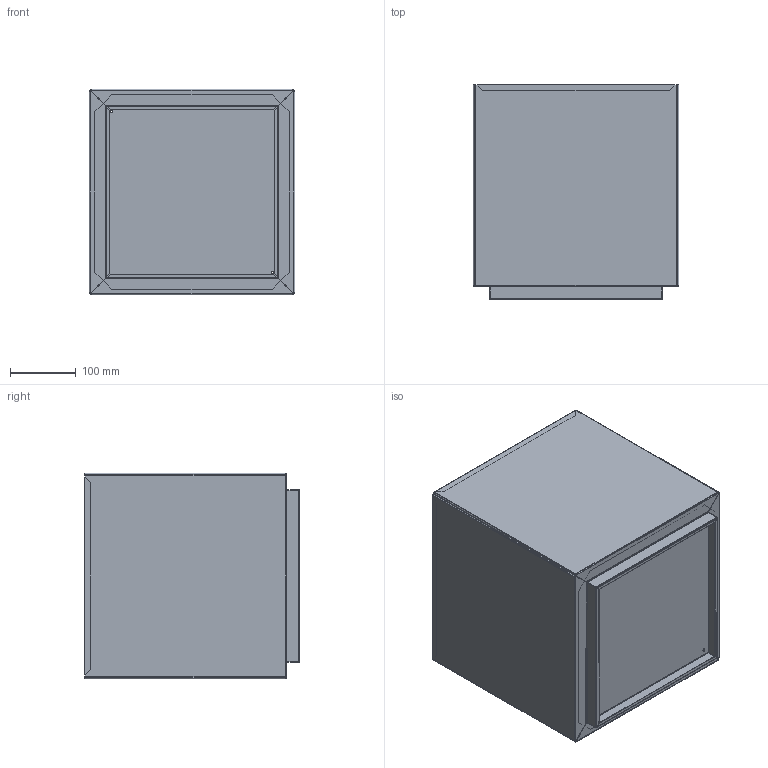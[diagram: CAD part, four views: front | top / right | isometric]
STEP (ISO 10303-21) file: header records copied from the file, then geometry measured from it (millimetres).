
FILE_DESCRIPTION((''),'2;1');
FILE_NAME('22058_ASM','2023-07-10T15:04:16',('joshb'),(''),'CREO PARAMETRIC BY PTC INC, 2019344','CREO PARAMETRIC BY PTC INC, 2019344','');
FILE_SCHEMA(('CONFIG_CONTROL_DESIGN'));
Length unit declared in the file: inch
Products named in the file (3): 22057-012-XXX; 22061-012-XXX; 22058_ASM
Assembly tree (5 placements, depth 2):
  22058_ASM
    22057-012-XXX  x4
    22061-012-XXX
Bounding box: 313.06 x 327.95 x 313.06 mm (x, y, z)
Volume: 533135 mm3; surface area: 1177101.7 mm2
Topology: 5 solids, 5 shells, 722 faces, 1788 edges, 1052 vertices
Faces by surface type: plane 426, bspline 156, cylinder 140
Entity records: 7426 total; most frequent: CARTESIAN_POINT 3009, ORIENTED_EDGE 948, DIRECTION 771, EDGE_CURVE 474, VECTOR 347, LINE 347, VERTEX_POINT 281, EDGE_LOOP 215
